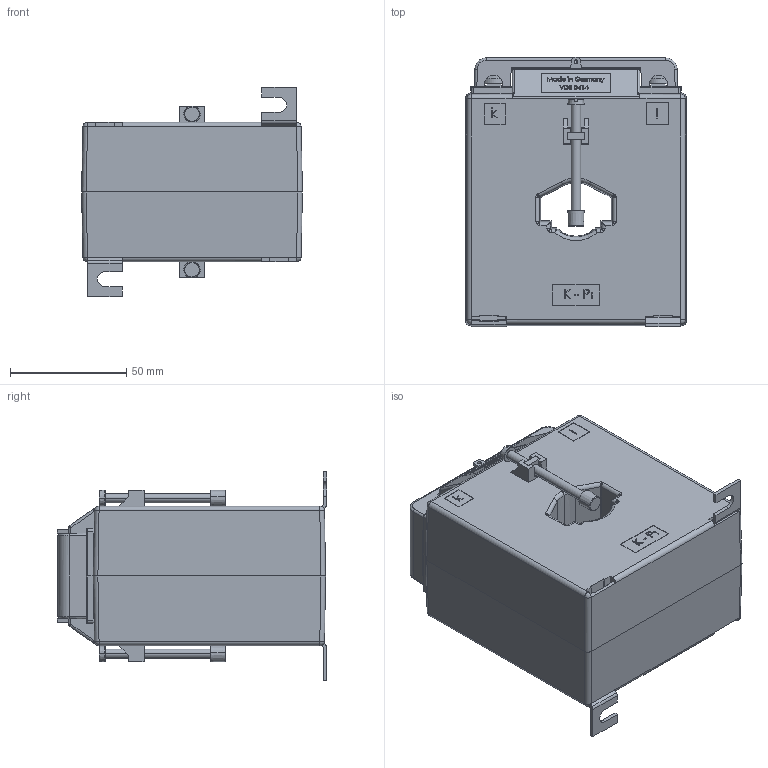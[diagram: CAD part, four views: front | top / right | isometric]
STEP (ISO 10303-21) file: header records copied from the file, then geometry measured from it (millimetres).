
FILE_DESCRIPTION (( 'STEP AP214' ), '1' );
FILE_NAME ('EASK31.6_kpl.STEP', '2012-01-16T11:23:45', ( ' ' ), ( '' ), 'SwSTEP 2.0', 'SolidWorks 2010', '' );
FILE_SCHEMA (( 'AUTOMOTIVE_DESIGN' ));
Length unit declared in the file: millimetre
Products named in the file (9): Vierkantmutter_M4; Linsenschraube DIN 7985 4.8 VZ M 5 x 10; Zylinderschraube DIN 84 4.8 VG M 4 x 50; Isolierschutzkappe; Fusswinkel_1,5; Plombierabdeckung_ASK31_6_01; EASK31.6_kpl; MBS_WN-003_04_Klemme_WN-003_02; ASK31.6_11
Assembly tree (17 placements, depth 2):
  EASK31.6_kpl
    Linsenschraube DIN 7985 4.8 VZ M 5 x 10  x4
    Zylinderschraube DIN 84 4.8 VG M 4 x 50  x2
    ASK31.6_11  x2
    Fusswinkel_1,5  x2
    MBS_WN-003_04_Klemme_WN-003_02  x2
    Vierkantmutter_M4  x2
    Isolierschutzkappe  x2
    Plombierabdeckung_ASK31_6_01
Bounding box: 95 x 116 x 90 mm (x, y, z)
Volume: 564946 mm3; surface area: 90779.2 mm2
Topology: 19 solids, 19 shells, 1548 faces, 3999 edges, 2558 vertices
Faces by surface type: plane 974, bspline 270, cylinder 195, torus 38, cone 37, sphere 34
Entity records: 30854 total; most frequent: CARTESIAN_POINT 11849, ORIENTED_EDGE 4160, DIRECTION 3295, EDGE_CURVE 2080, VECTOR 1467, LINE 1467, VERTEX_POINT 1348, AXIS2_PLACEMENT_3D 914
